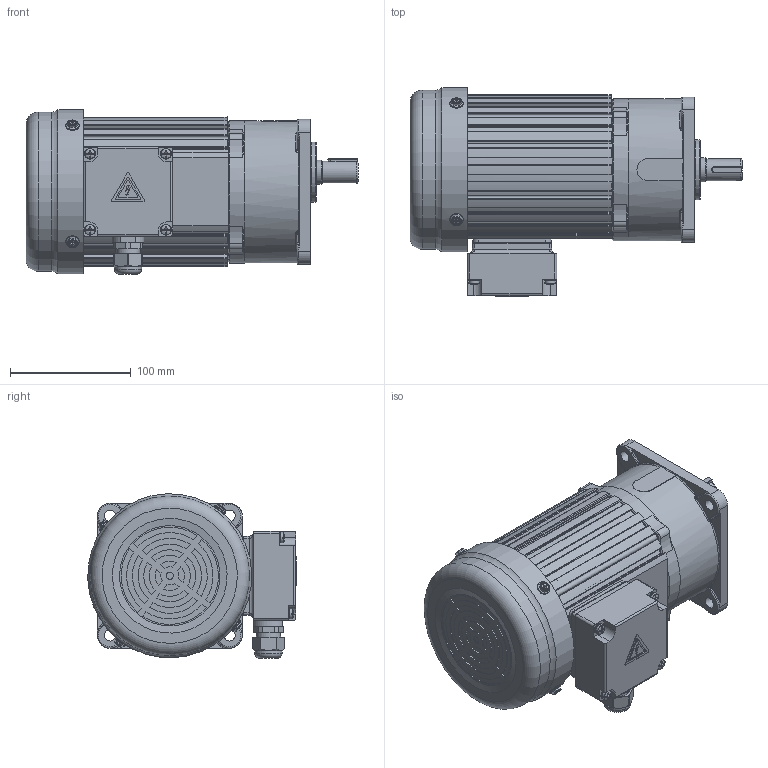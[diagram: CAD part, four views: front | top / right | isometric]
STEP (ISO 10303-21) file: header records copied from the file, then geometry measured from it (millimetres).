
FILE_DESCRIPTION(/* description */ (''),/* implementation_level */ '2;1');
FILE_NAME(/* name */ 'CV18-200-3～200外形多速比.stp',/* time_stamp */ '2025-04-30T14:47:19+08:00',/* author */ (''),/* organization */ (''),/* preprocessor_version */ 'ST-DEVELOPER v18.102',/* originating_system */ 'SIEMENS PLM Software NX 2027',/* authorisation */ '');
FILE_SCHEMA (('AP203_CONFIGURATION_CONTROLLED_3D_DESIGN_OF_MECHANICAL_PARTS_AND_ASSEMBLIES_MIM_LF { 1 0 10303 403 2 1 2}'));
Length unit declared in the file: millimetre
Products named in the file (1): CV18-200-3～200外形多速比_obj
ects
Bounding box: 275 x 172.69 x 136.24 mm (x, y, z)
Volume: 2937929.5 mm3; surface area: 271208.3 mm2
Topology: 5 solids, 5 shells, 2142 faces, 5445 edges, 3340 vertices
Faces by surface type: plane 931, cylinder 552, cone 240, torus 194, bspline 167, sphere 42, revolution 16
Full cylindrical faces by diameter (mm): 3 x2, 4.2 x12, 4.336 x2, 4.6 x4, 4.826 x4, 5 x6, 5.795 x3, 6 x1, 6.4 x4, 8.5 x4, 9 x4, 9.5 x4, 10 x5, 11 x7, 13.98 x1, 14.5 x1, 17 x2, 17.6 x1, 18 x1, 20 x2, 21 x1, 22.5 x1, 35 x1, 50 x2, 110.5 x1, 118 x2, 132 x1, 136 x1
Entity records: 67935 total; most frequent: CARTESIAN_POINT 18435, ORIENTED_EDGE 10364, DIRECTION 10179, EDGE_CURVE 5182, AXIS2_PLACEMENT_3D 3979, VERTEX_POINT 3279, EDGE_LOOP 2380, LINE 2205
